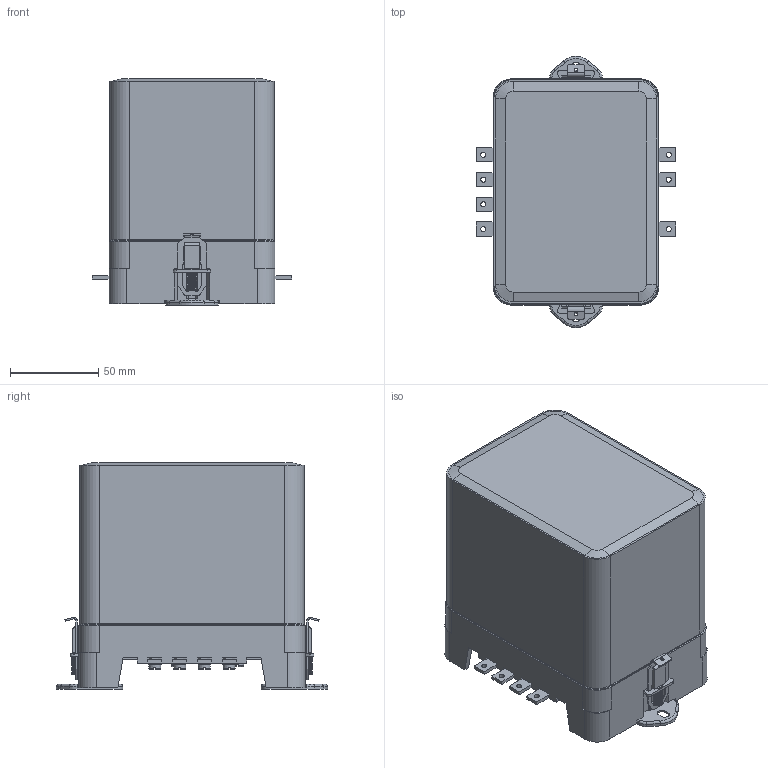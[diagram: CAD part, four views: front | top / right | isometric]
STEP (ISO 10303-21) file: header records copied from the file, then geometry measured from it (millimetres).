
FILE_DESCRIPTION(('STEP AP214'), '1');
FILE_NAME('ÐÂ114, ÐÂ124, ÐÂ134, ÐÂ144 ï.ï', '', ('UNSPECIFIED'), ('UNSPECIFIED'), 'ASCON STEP Converter 1.3', 'ASCON Math Kernel', '');
FILE_SCHEMA(('AUTOMOTIVE_DESIGN { 1 0 10303 214 3 1 1}'));
Length unit declared in the file: millimetre
Bounding box: 113 x 153.6 x 128.3 mm (x, y, z)
Volume: 226672.4 mm3; surface area: 160899.3 mm2
Topology: 2 solids, 2 shells, 1272 faces, 3317 edges, 2047 vertices
Faces by surface type: plane 723, cylinder 363, torus 119, cone 32, sphere 29, bspline 6
Full cylindrical faces by diameter (mm): 2 x2, 2.917 x7, 3.3 x7, 3.5 x2, 4 x16, 4.3 x9, 4.5 x2, 5.5 x20, 8 x2
Entity records: 57186 total; most frequent: CARTESIAN_POINT 15965, DIRECTION 6500, ORIENTED_EDGE 6352, EDGE_CURVE 3176, AXIS2_PLACEMENT_3D 2246, VERTEX_POINT 2041, LINE 2008, VECTOR 2008
